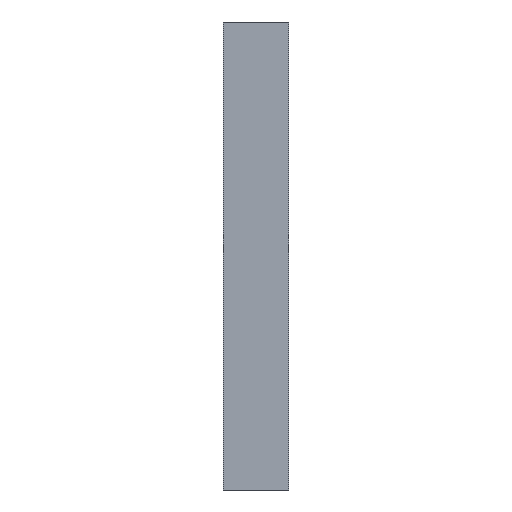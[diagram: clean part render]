
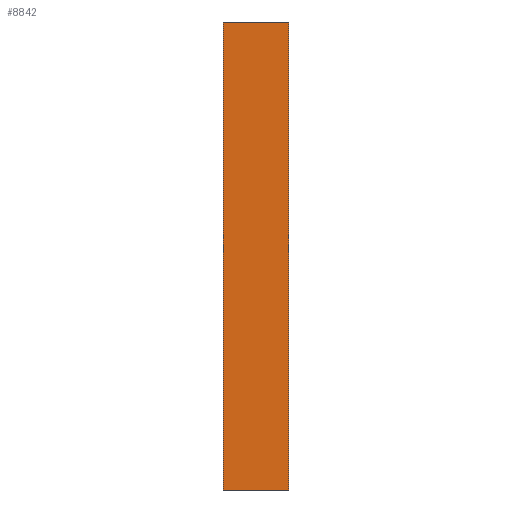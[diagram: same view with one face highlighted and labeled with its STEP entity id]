
A CAD part, left-side view. The second image highlights one B-rep face of the part: STEP entity #8842.
In plain terms, the highlighted planar face has unit normal (-1, 0, 0).
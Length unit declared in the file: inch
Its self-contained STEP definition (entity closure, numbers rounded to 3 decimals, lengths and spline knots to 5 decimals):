
#237 = VECTOR ( 'NONE', #9515, 39.37008 ) ;
#597 = VECTOR ( 'NONE', #22211, 39.37008 ) ;
#1988 = ORIENTED_EDGE ( 'NONE', *, *, #2746, .T. ) ;
#2746 = EDGE_CURVE ( 'NONE', #31426, #9807, #4860, .T. ) ;
#3851 = CARTESIAN_POINT ( 'NONE',  ( -15.955, 3.75, -13.455 ) ) ;
#3868 = LINE ( 'NONE', #16895, #18745 ) ;
#4792 = DIRECTION ( 'NONE',  ( 0., 0., 1. ) ) ;
#4860 = LINE ( 'NONE', #29497, #597 ) ;
#8842 = ADVANCED_FACE ( 'NONE', ( #32415 ), #14559, .T. ) ;
#9515 = DIRECTION ( 'NONE',  ( 0., 0., -1. ) ) ;
#9807 = VERTEX_POINT ( 'NONE', #12569 ) ;
#10896 = AXIS2_PLACEMENT_3D ( 'NONE', #29919, #19373, #4792 ) ;
#12569 = CARTESIAN_POINT ( 'NONE',  ( -15.955, 0., -13.455 ) ) ;
#14559 = PLANE ( 'NONE',  #10896 ) ;
#16010 = DIRECTION ( 'NONE',  ( 0., -1., 0. ) ) ;
#16895 = CARTESIAN_POINT ( 'NONE',  ( -15.955, 3.75, 13.455 ) ) ;
#17323 = ORIENTED_EDGE ( 'NONE', *, *, #27293, .F. ) ;
#18745 = VECTOR ( 'NONE', #21874, 39.37008 ) ;
#19373 = DIRECTION ( 'NONE',  ( -1., 0., 0. ) ) ;
#19797 = LINE ( 'NONE', #32181, #237 ) ;
#20187 = CARTESIAN_POINT ( 'NONE',  ( -15.955, 0., 13.455 ) ) ;
#21874 = DIRECTION ( 'NONE',  ( 0., 0., -1. ) ) ;
#22211 = DIRECTION ( 'NONE',  ( 0., -1., 0. ) ) ;
#22996 = VECTOR ( 'NONE', #16010, 39.37008 ) ;
#23381 = ORIENTED_EDGE ( 'NONE', *, *, #24405, .F. ) ;
#23946 = CARTESIAN_POINT ( 'NONE',  ( -15.955, 45.99202, 13.455 ) ) ;
#24405 = EDGE_CURVE ( 'NONE', #31737, #30285, #31561, .T. ) ;
#25502 = EDGE_LOOP ( 'NONE', ( #23381, #27780, #1988, #17323 ) ) ;
#27293 = EDGE_CURVE ( 'NONE', #30285, #9807, #19797, .T. ) ;
#27780 = ORIENTED_EDGE ( 'NONE', *, *, #27863, .T. ) ;
#27863 = EDGE_CURVE ( 'NONE', #31737, #31426, #3868, .T. ) ;
#29497 = CARTESIAN_POINT ( 'NONE',  ( -15.955, 45.99202, -13.455 ) ) ;
#29919 = CARTESIAN_POINT ( 'NONE',  ( -15.955, 45.99202, 13.455 ) ) ;
#30285 = VERTEX_POINT ( 'NONE', #20187 ) ;
#31229 = CARTESIAN_POINT ( 'NONE',  ( -15.955, 3.75, 13.455 ) ) ;
#31426 = VERTEX_POINT ( 'NONE', #3851 ) ;
#31561 = LINE ( 'NONE', #23946, #22996 ) ;
#31737 = VERTEX_POINT ( 'NONE', #31229 ) ;
#32181 = CARTESIAN_POINT ( 'NONE',  ( -15.955, 0., 13.455 ) ) ;
#32415 = FACE_OUTER_BOUND ( 'NONE', #25502, .T. ) ;
